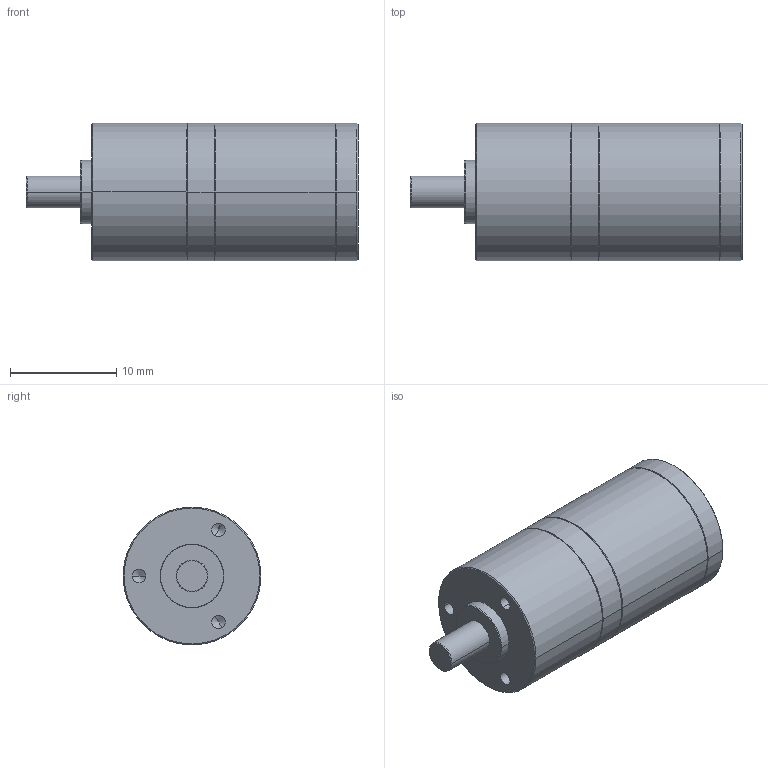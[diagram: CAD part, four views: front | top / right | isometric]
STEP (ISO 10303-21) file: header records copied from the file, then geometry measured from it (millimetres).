
FILE_DESCRIPTION((''),'2;1');
FILE_NAME('1201825','2016-10-04T',('mmagvisi'),(''),'CREO PARAMETRIC BY PTC INC, 2016050','CREO PARAMETRIC BY PTC INC, 2016050','');
FILE_SCHEMA(('CONFIG_CONTROL_DESIGN'));
Length unit declared in the file: millimetre
Products named in the file (1): 1201825
Bounding box: 31.3 x 13 x 13 mm (x, y, z)
Volume: 3192 mm3; surface area: 1487.4 mm2
Topology: 1 solids, 1 shells, 57 faces, 118 edges, 63 vertices
Faces by surface type: cone 30, cylinder 22, plane 5
Entity records: 1550 total; most frequent: DIRECTION 286, CARTESIAN_POINT 232, ORIENTED_EDGE 224, AXIS2_PLACEMENT_3D 117, EDGE_CURVE 112, VERTEX_POINT 63, EDGE_LOOP 63, CIRCLE 60
